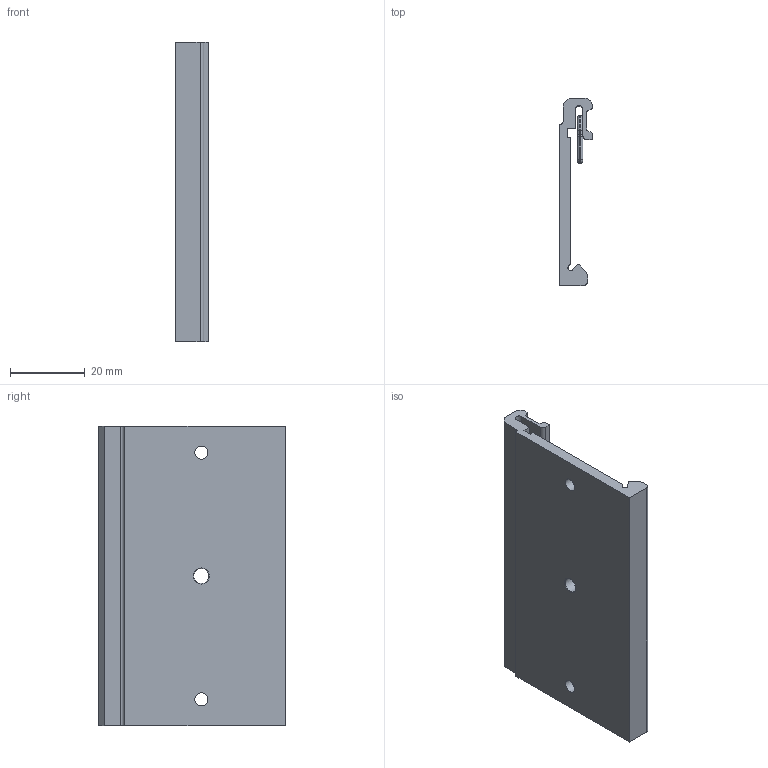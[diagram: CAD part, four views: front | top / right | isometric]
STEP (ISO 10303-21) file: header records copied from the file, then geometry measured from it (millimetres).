
FILE_DESCRIPTION((''),'2;1');
FILE_NAME('W:\mechanical\機構工程圖\3D圖檔\3D Outline-2020\已完成待審核\DRP-04.stp','2020-05-28T17:47:32',('shirley'),(''),'Autodesk Inventor 2010','Autodesk Inventor 2010','');
FILE_SCHEMA(('AUTOMOTIVE_DESIGN { 1 0 10303 214 1 1 1 1 }'));
Length unit declared in the file: millimetre
Products named in the file (3): DRP-04; 12
Assembly tree (2 placements, depth 2):
  DRP-04
    DRP-04
    12
Bounding box: 8.7 x 50 x 80 mm (x, y, z)
Volume: 15240.2 mm3; surface area: 12390.2 mm2
Topology: 2 solids, 2 shells, 119 faces, 290 edges, 167 vertices
Faces by surface type: cylinder 51, plane 41, torus 11, sphere 8, bspline 8
Full cylindrical faces by diameter (mm): 3.5 x2, 4 x1
Entity records: 3667 total; most frequent: CARTESIAN_POINT 819, DIRECTION 623, ORIENTED_EDGE 552, EDGE_CURVE 276, AXIS2_PLACEMENT_3D 235, VERTEX_POINT 167, VECTOR 153, LINE 153
